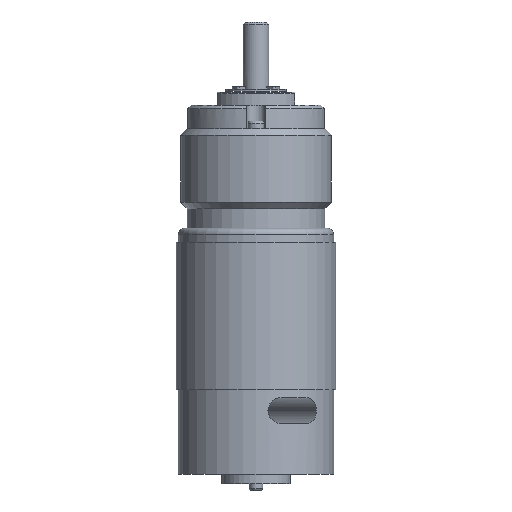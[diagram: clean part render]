
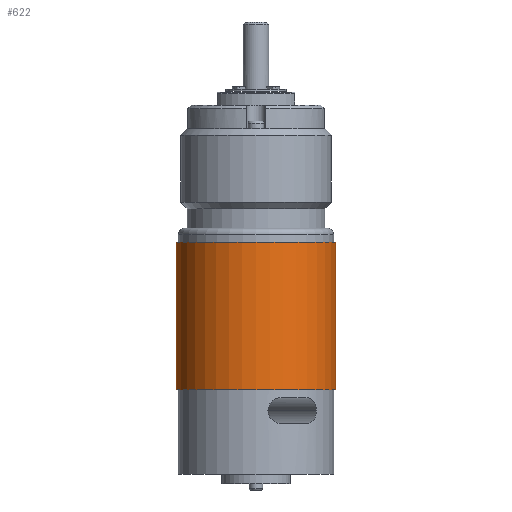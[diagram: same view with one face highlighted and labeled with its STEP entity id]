
A CAD part, front view. The second image highlights one B-rep face of the part: STEP entity #622.
In plain terms, the highlighted cylindrical face has radius 18.5 mm (diameter 37 mm), a partial arc.
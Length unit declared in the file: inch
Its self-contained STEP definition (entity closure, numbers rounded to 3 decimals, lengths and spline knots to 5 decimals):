
#622=ADVANCED_FACE('NONE',(#1305),#1306,.T.);
#1305=FACE_OUTER_BOUND('',#2068,.T.);
#1306=CYLINDRICAL_SURFACE('',#2069,0.72835);
#2068=EDGE_LOOP('',(#3759,#3760,#3761,#3762));
#2069=AXIS2_PLACEMENT_3D('',#3763,#3764,#3765);
#3759=ORIENTED_EDGE('',*,*,#5099,.F.);
#3760=ORIENTED_EDGE('',*,*,#4991,.T.);
#3761=ORIENTED_EDGE('',*,*,#5100,.T.);
#3762=ORIENTED_EDGE('',*,*,#4841,.F.);
#3763=CARTESIAN_POINT('',(0.0,-0.21806,-2.47396));
#3764=DIRECTION('',(-0.0,-0.0,1.0));
#3765=DIRECTION('',(1.0,0.0,0.0));
#4841=EDGE_CURVE('NONE',#5938,#5937,#5940,.T.);
#4991=EDGE_CURVE('NONE',#6150,#6149,#6152,.T.);
#5099=EDGE_CURVE('NONE',#6150,#5938,#6286,.T.);
#5100=EDGE_CURVE('NONE',#6149,#5937,#6287,.T.);
#5937=VERTEX_POINT('NONE',#7557);
#5938=VERTEX_POINT('NONE',#7558);
#5940=CIRCLE('',#7560,0.72835);
#6149=VERTEX_POINT('NONE',#7840);
#6150=VERTEX_POINT('NONE',#7841);
#6152=CIRCLE('',#7843,0.72835);
#6286=LINE('',#8017,#8018);
#6287=LINE('',#8019,#8020);
#7557=CARTESIAN_POINT('',(0.72835,-0.21806,-1.1275));
#7558=CARTESIAN_POINT('',(-0.72835,-0.21806,-1.1275));
#7560=AXIS2_PLACEMENT_3D('',#8807,#8808,#8809);
#7840=CARTESIAN_POINT('',(0.72835,-0.21806,-2.47396));
#7841=CARTESIAN_POINT('',(-0.72835,-0.21806,-2.47396));
#7843=AXIS2_PLACEMENT_3D('',#9013,#9014,#9015);
#8017=CARTESIAN_POINT('',(-0.72835,-0.21806,-2.47396));
#8018=VECTOR('',#9149,39.37008);
#8019=CARTESIAN_POINT('',(0.72835,-0.21806,-2.47396));
#8020=VECTOR('',#9150,39.37008);
#8807=CARTESIAN_POINT('',(0.0,-0.21806,-1.1275));
#8808=DIRECTION('',(0.0,0.0,1.0));
#8809=DIRECTION('',(1.0,0.0,0.0));
#9013=CARTESIAN_POINT('',(0.0,-0.21806,-2.47396));
#9014=DIRECTION('',(0.0,0.0,1.0));
#9015=DIRECTION('',(1.0,0.0,0.0));
#9149=DIRECTION('',(0.0,0.0,1.0));
#9150=DIRECTION('',(0.0,0.0,1.0));
